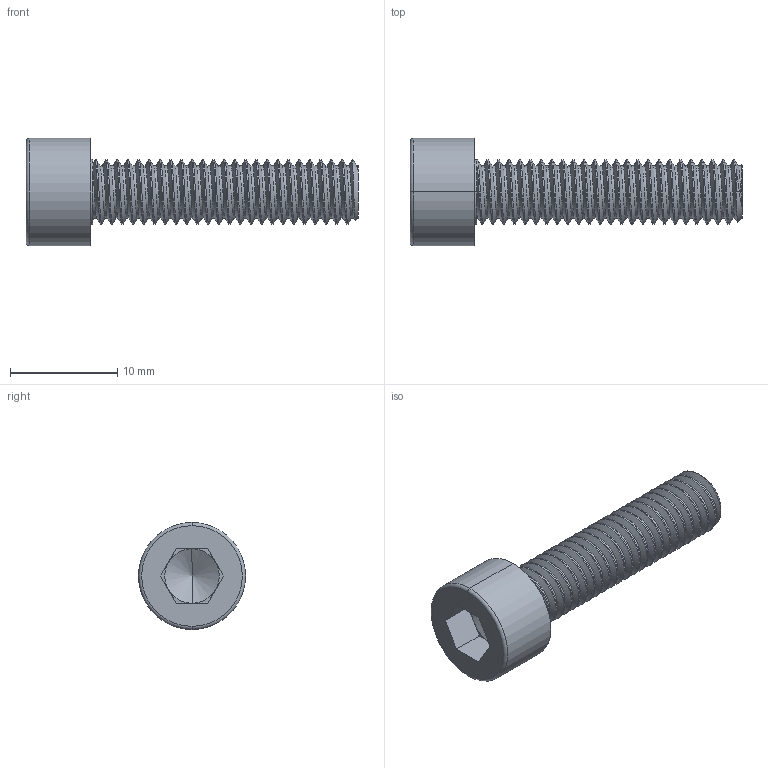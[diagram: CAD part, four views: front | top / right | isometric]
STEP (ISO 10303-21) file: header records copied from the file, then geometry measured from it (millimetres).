
FILE_DESCRIPTION (( 'STEP AP203' ), '1' );
FILE_NAME ('Ì6õ25_DIN912.STEP', '2025-11-19T08:46:58', ( '' ), ( '' ), 'SwSTEP 2.0', 'SolidWorks 2022', '' );
FILE_SCHEMA (( 'CONFIG_CONTROL_DESIGN' ));
Length unit declared in the file: millimetre
Products named in the file (1): М6х25_DIN912
Bounding box: 31 x 10 x 10 mm (x, y, z)
Volume: 964.3 mm3; surface area: 1103.2 mm2
Topology: 1 solids, 1 shells, 80 faces, 218 edges, 140 vertices
Faces by surface type: cylinder 51, plane 16, cone 5, torus 4, bspline 4
Entity records: 7302 total; most frequent: CARTESIAN_POINT 5539, ORIENTED_EDGE 432, DIRECTION 283, EDGE_CURVE 216, VERTEX_POINT 140, AXIS2_PLACEMENT_3D 102, EDGE_LOOP 82, FACE_OUTER_BOUND 80
